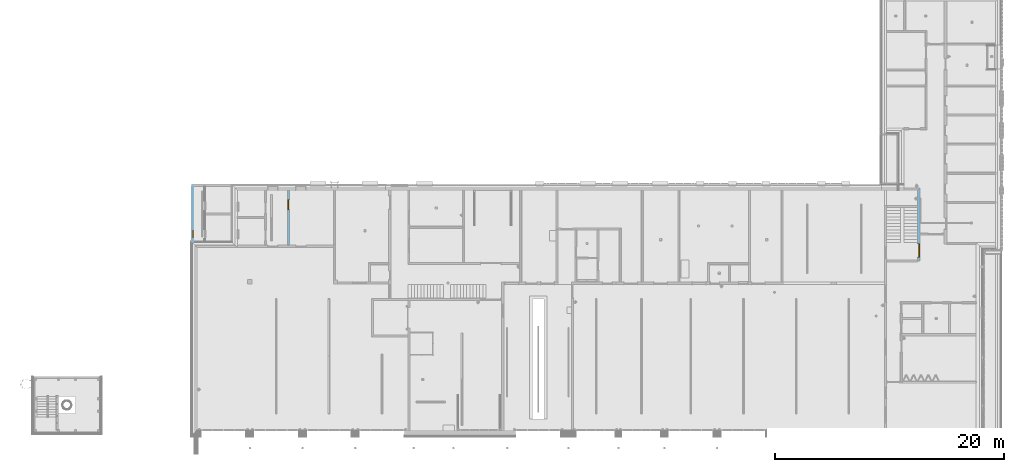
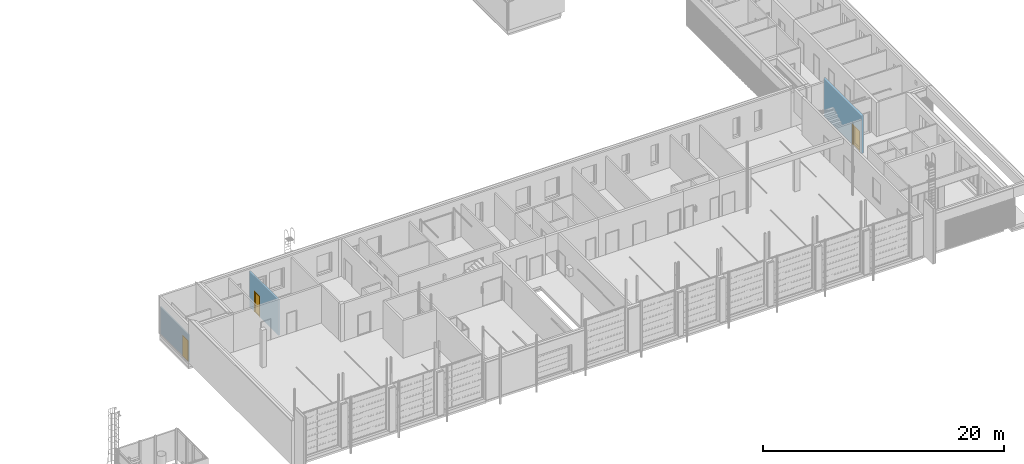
# One storey, part 44 of 112: 3 doors, 3 openings, plus 3 elements that do not belong to this part.
"""IFC2X3 building model written with IfcOpenShell, lengths in millimetres."""

from ifc_helpers import new_model, entity, si_unit, converted_unit, derived_unit, money_unit, direction, frame, origin_with_axes, origin_2d_with_axis, place, context, subcontext, project, spatial, polyline, rectangle, outline, extrude, open_shell, faceted_brep, surface_model, material, layer, layer_set, layer_usage, type_object, element, fill, save


model = new_model("IFC2X3")

# Units and contexts
model_context = context("Model", 3, precision=0.01, world=origin_with_axes(), true_north=direction((0.0, 1.0)))
body_context = subcontext(model_context, "Body", "Model", "MODEL_VIEW")
ifc_project = project(units=[si_unit("LENGTHUNIT", "METRE", prefix="MILLI"), si_unit("AREAUNIT", "SQUARE_METRE"), si_unit("VOLUMEUNIT", "CUBIC_METRE"), converted_unit("PLANEANGLEUNIT", "DEGREE", entity("IfcPlaneAngleMeasure", 0.0174532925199), si_unit("PLANEANGLEUNIT", "RADIAN"), dimensions=[0, 0, 0, 0, 0, 0, 0]), si_unit("SOLIDANGLEUNIT", "STERADIAN"), money_unit("EUR"), converted_unit("TIMEUNIT", "Year", entity("IfcTimeMeasure", 31556926.0), si_unit("TIMEUNIT", "SECOND"), dimensions=[0, 0, 1, 0, 0, 0, 0]), si_unit("MASSUNIT", "GRAM", prefix="KILO"), si_unit("THERMODYNAMICTEMPERATUREUNIT", "DEGREE_CELSIUS"), si_unit("LUMINOUSINTENSITYUNIT", "LUMEN"), si_unit("ENERGYUNIT", "JOULE", prefix="MEGA"), derived_unit("THERMALCONDUCTANCEUNIT", [(si_unit("POWERUNIT", "WATT"), 1), (si_unit("LENGTHUNIT", "METRE"), -1), (si_unit("THERMODYNAMICTEMPERATUREUNIT", "KELVIN"), -1)]), derived_unit("SPECIFICHEATCAPACITYUNIT", [(si_unit("ENERGYUNIT", "JOULE"), 1), (si_unit("MASSUNIT", "GRAM", prefix="KILO"), -1), (si_unit("THERMODYNAMICTEMPERATUREUNIT", "KELVIN"), -1)]), derived_unit("MASSDENSITYUNIT", [(si_unit("MASSUNIT", "GRAM", prefix="KILO"), 1), (si_unit("VOLUMEUNIT", "CUBIC_METRE"), -1)])], contexts=[model_context])

# Site, building, storey
site_placement = place(None, origin_with_axes())
site = spatial("IfcSite", under=ifc_project, at=site_placement, Name="Politse- ja Piirivalveameti ning Päästeameti ühishoone", CompositionType="ELEMENT")
building_placement = place(site_placement, origin_with_axes())
building = spatial("IfcBuilding", under=site, at=building_placement, Name="Politse- ja Piirivalveameti ning Päästeameti ühishoone", CompositionType="ELEMENT")
storey_placement = place(building_placement, origin_with_axes())
storey = spatial("IfcBuildingStorey", under=building, at=storey_placement, Name="Esimene korrus", CompositionType="ELEMENT", Elevation=0.0)

# Wall, opening, door
ifc_material_1 = material(Name="KON-05_Betoon Plokk - Konstuktsioon")
ifc_layer_1 = layer(ifc_material_1, 190.0, ventilated="UNKNOWN")
ifc_layer_set_1 = layer_set([ifc_layer_1], Name="SS-03_Sisesein 190")
ifc_layer_usage_1 = layer_usage(ifc_layer_set_1, "AXIS2", "NEGATIVE", 190.0)
wall_type_1 = type_object("IfcWallType", Name="SS-03_Sisesein 190 190", PredefinedType="NOTDEFINED")
wall_1_placement = place(storey_placement, frame((63050.557259, 14802.7968272, 0.0), z_axis=(0.0, 0.0, 1.0), x_axis=(0.0, 1.0, 0.0)))
wall_1 = element("IfcWallStandardCase", 1, at=wall_1_placement, inside=storey, type_object=wall_type_1, material=ifc_layer_usage_1, Name="SS-03", context=body_context, shape_type="SweptSolid", body=[
    extrude(outline(polyline([(0.0, 0.0), (6387.15525599, 0.0), (6197.15525599, 190.0), (0.0, 190.0), (0.0, 0.0)])), origin_with_axes(), (0.0, 0.0, 1.0), 3800.0),
])
opening_1_placement = place(wall_1_placement, frame((917.155255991, 0.0, 0.0), z_axis=(0.0, 0.0, 1.0), x_axis=(1.0, 0.0, 0.0)))
opening_1 = element("IfcOpeningElement", 2, at=opening_1_placement, cuts=wall_1, Name="TU-01-4", context=body_context, shape_type="SweptSolid", body=[
    extrude(rectangle(XDim=1200.0, YDim=2100.0, at=origin_2d_with_axis()), frame((0.0, 190.0, 1050.0), z_axis=(0.0, -1.0, 0.0), x_axis=(-1.0, 0.0, 0.0)), (0.0, 0.0, 1.0), 570.0),
    extrude(rectangle(XDim=1274.0, YDim=2137.0, at=origin_2d_with_axis()), frame((0.0, 190.0, 1068.5), z_axis=(0.0, -1.0, 0.0), x_axis=(-1.0, 0.0, 0.0)), (0.0, 0.0, -1.0), 190.0),
    extrude(rectangle(XDim=1274.0, YDim=2137.0, at=origin_2d_with_axis()), frame((0.0, 0.0, 1068.5), z_axis=(0.0, 1.0, 0.0), x_axis=(-1.0, 0.0, 0.0)), (0.0, 0.0, -1.0), 190.0),
])
door_style_1 = type_object("IfcDoorStyle", Name="Double Door Asymmetric 23", ConstructionType="NOTDEFINED", OperationType="DOUBLE_DOOR_SINGLE_SWING", ParameterTakesPrecedence=False, Sizeable=False)
door_1_placement = place(opening_1_placement, frame((600.0, 0.0, 0.0), z_axis=(0.0, 0.0, 1.0), x_axis=(-1.0, 0.0, 0.0)))
door_1 = element("IfcDoor", 3, at=door_1_placement, inside=storey, type_object=door_style_1, Name="TU-01-4", ObjectType="DOOR", OverallHeight=2100.0, OverallWidth=1200.0, context=body_context, shape_type="SurfaceModel", body=[
    faceted_brep([(1172.0, -40.0, 0.0), (1172.0, -40.0, 12.0), (1160.0, -40.0, 12.0), (1160.0, -40.0, 0.0), (28.0, -40.0, 0.0), (28.0, -40.0, 12.0), (40.0, -40.0, 12.0), (40.0, -115.0, 12.0), (1160.0, -115.0, 12.0), (1160.0, -115.0, 0.0), (40.0, -115.0, 0.0), (40.0, -40.0, 0.0)], [[[0, 1, 2, 3]], [[4, 5, 1, 0]], [[1, 5, 6, 7, 8, 2]], [[3, 2, 8, 9]], [[0, 3, 9, 10, 11, 4]], [[11, 6, 5, 4]], [[10, 7, 6, 11]], [[9, 8, 7, 10]]]),
    faceted_brep([(0.0, -115.0, 0.0), (25.0, -115.0, 0.0), (25.0, -190.0, 0.0), (0.0, -190.0, 0.0), (0.0, -115.0, 2100.0), (25.0, -115.0, 2075.0), (25.0, -190.0, 2075.0), (0.0, -190.0, 2100.0)], [[[0, 1, 2, 3]], [[0, 4, 5, 1]], [[1, 5, 6, 2]], [[3, 2, 6, 7]], [[4, 0, 3, 7]], [[5, 4, 7, 6]]]),
    faceted_brep([(1200.0, -115.0, 2100.0), (1175.0, -115.0, 2075.0), (1175.0, -190.0, 2075.0), (1200.0, -190.0, 2100.0), (1200.0, -115.0, 0.0), (1175.0, -115.0, 0.0), (1175.0, -190.0, 0.0), (1200.0, -190.0, 0.0)], [[[0, 1, 2, 3]], [[0, 4, 5, 1]], [[1, 5, 6, 2]], [[3, 2, 6, 7]], [[4, 0, 3, 7]], [[5, 4, 7, 6]]]),
    faceted_brep([(25.0, -115.0, 2075.0), (1175.0, -115.0, 2075.0), (1175.0, -190.0, 2075.0), (25.0, -190.0, 2075.0), (0.0, -115.0, 2100.0), (1200.0, -115.0, 2100.0), (1200.0, -190.0, 2100.0), (0.0, -190.0, 2100.0)], [[[0, 1, 2, 3]], [[0, 4, 5, 1]], [[1, 5, 6, 2]], [[3, 2, 6, 7]], [[4, 0, 3, 7]], [[5, 4, 7, 6]]]),
    faceted_brep([(-37.0, -209.0, 0.0), (-37.0, -190.0, 0.0), (13.0, -190.0, 0.0), (13.0, -209.0, 0.0), (-37.0, -209.0, 2137.0), (-37.0, -190.0, 2137.0), (13.0, -190.0, 2087.0), (13.0, -209.0, 2087.0)], [[[0, 1, 2, 3]], [[4, 5, 1, 0]], [[1, 5, 6, 2]], [[3, 2, 6, 7]], [[0, 3, 7, 4]], [[7, 6, 5, 4]]]),
    faceted_brep([(1237.0, -209.0, 2137.0), (1237.0, -190.0, 2137.0), (1187.0, -190.0, 2087.0), (1187.0, -209.0, 2087.0), (1237.0, -209.0, 0.0), (1237.0, -190.0, 0.0), (1187.0, -190.0, 0.0), (1187.0, -209.0, 0.0)], [[[0, 1, 2, 3]], [[4, 5, 1, 0]], [[1, 5, 6, 2]], [[3, 2, 6, 7]], [[0, 3, 7, 4]], [[7, 6, 5, 4]]]),
    faceted_brep([(-37.0, -209.0, 2137.0), (-37.0, -190.0, 2137.0), (13.0, -190.0, 2087.0), (13.0, -209.0, 2087.0), (1237.0, -209.0, 2137.0), (1237.0, -190.0, 2137.0), (1187.0, -190.0, 2087.0), (1187.0, -209.0, 2087.0)], [[[0, 1, 2, 3]], [[4, 5, 1, 0]], [[1, 5, 6, 2]], [[3, 2, 6, 7]], [[0, 3, 7, 4]], [[7, 6, 5, 4]]]),
    faceted_brep([(-37.0, 19.0, 0.0), (13.0, 19.0, 0.0), (13.0, 0.0, 0.0), (-37.0, 0.0, 0.0), (-37.0, 19.0, 2137.0), (13.0, 19.0, 2087.0), (13.0, 0.0, 2087.0), (-37.0, 0.0, 2137.0)], [[[0, 1, 2, 3]], [[0, 4, 5, 1]], [[1, 5, 6, 2]], [[3, 2, 6, 7]], [[4, 0, 3, 7]], [[5, 4, 7, 6]]]),
    faceted_brep([(1237.0, 19.0, 2137.0), (1187.0, 19.0, 2087.0), (1187.0, 0.0, 2087.0), (1237.0, 0.0, 2137.0), (1237.0, 19.0, 0.0), (1187.0, 19.0, 0.0), (1187.0, 0.0, 0.0), (1237.0, 0.0, 0.0)], [[[0, 1, 2, 3]], [[0, 4, 5, 1]], [[1, 5, 6, 2]], [[3, 2, 6, 7]], [[4, 0, 3, 7]], [[5, 4, 7, 6]]]),
    faceted_brep([(-37.0, 19.0, 2137.0), (13.0, 19.0, 2087.0), (13.0, 0.0, 2087.0), (-37.0, 0.0, 2137.0), (1237.0, 19.0, 2137.0), (1187.0, 19.0, 2087.0), (1187.0, 0.0, 2087.0), (1237.0, 0.0, 2137.0)], [[[0, 1, 2, 3]], [[0, 4, 5, 1]], [[1, 5, 6, 2]], [[3, 2, 6, 7]], [[4, 0, 3, 7]], [[5, 4, 7, 6]]]),
    faceted_brep([(40.0, -40.0, 0.0), (40.0, -40.0, 2060.0), (40.0, -115.0, 2060.0), (40.0, -115.0, 0.0), (28.0, -40.0, 2060.0), (28.0, -40.0, 0.0), (28.0, 0.0, 2060.0), (0.0, 0.0, 2060.0), (0.0, -115.0, 2060.0), (0.0, -115.0, 0.0), (0.0, 0.0, 0.0), (28.0, 0.0, 0.0)], [[[0, 1, 2, 3]], [[4, 1, 0, 5]], [[4, 6, 7, 8, 2, 1]], [[3, 2, 8, 9]], [[5, 0, 3, 9, 10, 11]], [[6, 4, 5, 11]], [[6, 11, 10, 7]], [[10, 9, 8, 7]]]),
    faceted_brep([(1172.0, -40.0, 2060.0), (1160.0, -40.0, 2060.0), (1160.0, -115.0, 2060.0), (1200.0, -115.0, 2060.0), (1200.0, 0.0, 2060.0), (1172.0, 0.0, 2060.0), (1172.0, -40.0, 0.0), (1160.0, -40.0, 0.0), (1160.0, -115.0, 0.0), (1200.0, -115.0, 0.0), (1200.0, 0.0, 0.0), (1172.0, 0.0, 0.0)], [[[0, 1, 2, 3, 4, 5]], [[1, 0, 6, 7]], [[1, 7, 8, 2]], [[3, 2, 8, 9]], [[4, 3, 9, 10]], [[11, 5, 4, 10]], [[0, 5, 11, 6]], [[6, 11, 10, 9, 8, 7]]]),
    faceted_brep([(28.0, 0.0, 2072.0), (28.0, 0.0, 2060.0), (0.0, 0.0, 2060.0), (0.0, 0.0, 2100.0), (1200.0, 0.0, 2100.0), (1200.0, 0.0, 2060.0), (1172.0, 0.0, 2060.0), (1172.0, 0.0, 2072.0), (28.0, -40.0, 2072.0), (28.0, -40.0, 2060.0), (40.0, -40.0, 2060.0), (40.0, -115.0, 2060.0), (0.0, -115.0, 2060.0), (0.0, -115.0, 2100.0), (1200.0, -115.0, 2100.0), (1200.0, -115.0, 2060.0), (1172.0, -40.0, 2060.0), (1160.0, -115.0, 2060.0), (1160.0, -40.0, 2060.0), (1172.0, -40.0, 2072.0)], [[[0, 1, 2, 3, 4, 5, 6, 7]], [[1, 0, 8, 9]], [[9, 10, 11, 12, 2, 1]], [[2, 12, 13, 3]], [[3, 13, 14, 4]], [[4, 14, 15, 5]], [[16, 6, 5, 15, 17, 18]], [[7, 6, 16, 19]], [[0, 7, 19, 8]], [[16, 18, 10, 9, 8, 19]], [[10, 18, 17, 11]], [[17, 15, 14, 13, 12, 11]]]),
    faceted_brep([(1172.0, 0.0, 200.0), (1172.0, -40.0, 200.0), (1072.0, -40.0, 200.0), (1072.0, 0.0, 200.0), (1172.0, 0.0, 1972.0), (1172.0, -40.0, 1972.0), (1072.0, -40.0, 1972.0), (1072.0, 0.0, 1972.0)], [[[0, 1, 2, 3]], [[4, 5, 1, 0]], [[1, 5, 6, 2]], [[3, 2, 6, 7]], [[0, 3, 7, 4]], [[7, 6, 5, 4]]]),
    faceted_brep([(872.0, 0.0, 200.0), (872.0, -40.0, 200.0), (872.0, -40.0, 1972.0), (872.0, 0.0, 1972.0), (972.0, 0.0, 200.0), (972.0, -40.0, 200.0), (972.0, -40.0, 1972.0), (972.0, 0.0, 1972.0)], [[[0, 1, 2, 3]], [[4, 5, 1, 0]], [[1, 5, 6, 2]], [[3, 2, 6, 7]], [[0, 3, 7, 4]], [[7, 6, 5, 4]]]),
    faceted_brep([(1172.0, 0.0, 0.0), (1172.0, -40.0, 0.0), (872.0, -40.0, 0.0), (872.0, 0.0, 0.0), (1172.0, 0.0, 200.0), (1172.0, -40.0, 200.0), (1072.0, -40.0, 200.0), (972.0, -40.0, 200.0), (872.0, -40.0, 200.0), (872.0, 0.0, 200.0), (972.0, 0.0, 200.0), (1072.0, 0.0, 200.0)], [[[0, 1, 2, 3]], [[4, 5, 1, 0]], [[1, 5, 6, 7, 8, 2]], [[3, 2, 8, 9]], [[0, 3, 9, 10, 11, 4]], [[11, 6, 5, 4]], [[10, 7, 6, 11]], [[9, 8, 7, 10]]]),
    faceted_brep([(1172.0, 0.0, 2072.0), (1172.0, -40.0, 2072.0), (1172.0, -40.0, 1972.0), (1172.0, 0.0, 1972.0), (872.0, 0.0, 2072.0), (872.0, -40.0, 2072.0), (872.0, -40.0, 1972.0), (972.0, -40.0, 1972.0), (1072.0, -40.0, 1972.0), (1072.0, 0.0, 1972.0), (972.0, 0.0, 1972.0), (872.0, 0.0, 1972.0)], [[[0, 1, 2, 3]], [[4, 5, 1, 0]], [[1, 5, 6, 7, 8, 2]], [[3, 2, 8, 9]], [[0, 3, 9, 10, 11, 4]], [[11, 6, 5, 4]], [[10, 7, 6, 11]], [[9, 8, 7, 10]]]),
    surface_model("IfcShellBasedSurfaceModel", [(1072.0, -14.0, 200.0), (972.0, -14.0, 200.0), (972.0, -14.0, 1972.0), (1072.0, -14.0, 1972.0)], [open_shell([[[0, 1, 2, 3]]])]),
    surface_model("IfcShellBasedSurfaceModel", [(1072.0, -26.0, 200.0), (1072.0, -26.0, 1972.0), (972.0, -26.0, 1972.0), (972.0, -26.0, 200.0)], [open_shell([[[0, 1, 2, 3]]])]),
    faceted_brep([(28.0, 0.0, 200.0), (128.0, 0.0, 200.0), (128.0, -40.0, 200.0), (28.0, -40.0, 200.0), (28.0, 0.0, 1972.0), (128.0, 0.0, 1972.0), (128.0, -40.0, 1972.0), (28.0, -40.0, 1972.0)], [[[0, 1, 2, 3]], [[0, 4, 5, 1]], [[1, 5, 6, 2]], [[3, 2, 6, 7]], [[4, 0, 3, 7]], [[5, 4, 7, 6]]]),
    faceted_brep([(872.0, 0.0, 200.0), (872.0, 0.0, 1972.0), (872.0, -40.0, 1972.0), (872.0, -40.0, 200.0), (772.0, 0.0, 200.0), (772.0, 0.0, 1972.0), (772.0, -40.0, 1972.0), (772.0, -40.0, 200.0)], [[[0, 1, 2, 3]], [[0, 4, 5, 1]], [[1, 5, 6, 2]], [[3, 2, 6, 7]], [[4, 0, 3, 7]], [[5, 4, 7, 6]]]),
    faceted_brep([(28.0, 0.0, 0.0), (872.0, 0.0, 0.0), (872.0, -40.0, 0.0), (28.0, -40.0, 0.0), (28.0, 0.0, 200.0), (128.0, 0.0, 200.0), (772.0, 0.0, 200.0), (872.0, 0.0, 200.0), (872.0, -40.0, 200.0), (772.0, -40.0, 200.0), (128.0, -40.0, 200.0), (28.0, -40.0, 200.0)], [[[0, 1, 2, 3]], [[0, 4, 5, 6, 7, 1]], [[1, 7, 8, 2]], [[3, 2, 8, 9, 10, 11]], [[4, 0, 3, 11]], [[5, 4, 11, 10]], [[6, 5, 10, 9]], [[7, 6, 9, 8]]]),
    faceted_brep([(28.0, 0.0, 2072.0), (28.0, 0.0, 1972.0), (28.0, -40.0, 1972.0), (28.0, -40.0, 2072.0), (872.0, 0.0, 2072.0), (872.0, 0.0, 1972.0), (772.0, 0.0, 1972.0), (128.0, 0.0, 1972.0), (128.0, -40.0, 1972.0), (772.0, -40.0, 1972.0), (872.0, -40.0, 1972.0), (872.0, -40.0, 2072.0)], [[[0, 1, 2, 3]], [[0, 4, 5, 6, 7, 1]], [[1, 7, 8, 2]], [[3, 2, 8, 9, 10, 11]], [[4, 0, 3, 11]], [[5, 4, 11, 10]], [[6, 5, 10, 9]], [[7, 6, 9, 8]]]),
    surface_model("IfcShellBasedSurfaceModel", [(128.0, -14.0, 200.0), (128.0, -14.0, 1972.0), (772.0, -14.0, 1972.0), (772.0, -14.0, 200.0)], [open_shell([[[0, 1, 2, 3]]])]),
    surface_model("IfcShellBasedSurfaceModel", [(128.0, -26.0, 200.0), (772.0, -26.0, 200.0), (772.0, -26.0, 1972.0), (128.0, -26.0, 1972.0)], [open_shell([[[0, 1, 2, 3]]])]),
])
fill(opening_1, door_1)

ifc_layer_2 = layer(ifc_material_1, 140.0, ventilated="UNKNOWN")
ifc_layer_set_2 = layer_set([ifc_layer_2], Name="SS-02_Sisesein 140")
ifc_layer_usage_2 = layer_usage(ifc_layer_set_2, "AXIS2", "NEGATIVE", 140.0)
wall_type_2 = type_object("IfcWallType", Name="SS-02_Sisesein 140 140", PredefinedType="NOTDEFINED")
wall_2_placement = place(storey_placement, frame((7899.93206932, 20999.9520832, 0.0), z_axis=(0.0, 0.0, 1.0), x_axis=(0.0, -1.0, 0.0)))
wall_2 = element("IfcWallStandardCase", 4, at=wall_2_placement, inside=storey, type_object=wall_type_2, material=ifc_layer_usage_2, Name="SS-02", context=body_context, shape_type="SweptSolid", body=[
    extrude(outline(polyline([(0.0, 0.0), (4809.92763877, 0.0), (4809.92763877, 140.0), (0.0, 140.0), (0.0, 0.0)])), origin_with_axes(), (0.0, 0.0, 1.0), 3580.0),
])
opening_2_placement = place(wall_2_placement, frame((1269.67215762, 0.0, 0.0), z_axis=(0.0, 0.0, 1.0), x_axis=(1.0, 0.0, 0.0)))
opening_2 = element("IfcOpeningElement", 5, at=opening_2_placement, cuts=wall_2, Name="SU-01-1", context=body_context, shape_type="SweptSolid", body=[
    extrude(rectangle(XDim=900.0, YDim=2100.0, at=origin_2d_with_axis()), frame((0.0, 140.0, 1050.0), z_axis=(0.0, -1.0, 0.0), x_axis=(1.0, 0.0, 0.0)), (0.0, 0.0, 1.0), 420.0),
    extrude(rectangle(XDim=974.0, YDim=2137.0, at=origin_2d_with_axis()), frame((0.0, 140.0, 1068.5), z_axis=(0.0, -1.0, 0.0), x_axis=(1.0, 0.0, 0.0)), (0.0, 0.0, -1.0), 140.0),
    extrude(rectangle(XDim=974.0, YDim=2137.0, at=origin_2d_with_axis()), frame((0.0, 0.0, 1068.5), z_axis=(0.0, 1.0, 0.0), x_axis=(1.0, 0.0, 0.0)), (0.0, 0.0, -1.0), 140.0),
])
door_style_2 = type_object("IfcDoorStyle", Name="Door 23", ConstructionType="NOTDEFINED", OperationType="SINGLE_SWING_RIGHT", ParameterTakesPrecedence=False, Sizeable=False)
door_2_placement = place(opening_2_placement, frame((-450.0, 0.0, 0.0), z_axis=(0.0, 0.0, 1.0), x_axis=(1.0, 0.0, 0.0)))
door_2 = element("IfcDoor", 6, at=door_2_placement, inside=storey, type_object=door_style_2, Name="SU-01-1", ObjectType="DOOR", OverallHeight=2100.0, OverallWidth=900.0, context=body_context, shape_type="Brep", body=[
    faceted_brep([(860.0, 0.0, 0.0), (860.0, 75.0, 0.0), (860.0, 75.0, 12.0), (860.0, 0.0, 12.0), (40.0, 0.0, 0.0), (40.0, 75.0, 0.0), (28.0, 75.0, 0.0), (872.0, 75.0, 0.0), (872.0, 75.0, 12.0), (28.0, 75.0, 12.0), (40.0, 75.0, 12.0), (40.0, 0.0, 12.0)], [[[0, 1, 2, 3]], [[0, 4, 5, 6, 7, 1]], [[1, 7, 8, 2]], [[3, 2, 8, 9, 10, 11]], [[4, 0, 3, 11]], [[5, 4, 11, 10]], [[6, 5, 10, 9]], [[7, 6, 9, 8]]]),
    faceted_brep([(0.0, 115.0, 0.0), (0.0, 140.0, 0.0), (25.0, 140.0, 0.0), (25.0, 115.0, 0.0), (0.0, 115.0, 2100.0), (0.0, 140.0, 2100.0), (25.0, 140.0, 2075.0), (25.0, 115.0, 2075.0)], [[[0, 1, 2, 3]], [[4, 5, 1, 0]], [[1, 5, 6, 2]], [[3, 2, 6, 7]], [[0, 3, 7, 4]], [[7, 6, 5, 4]]]),
    faceted_brep([(900.0, 115.0, 2100.0), (900.0, 140.0, 2100.0), (875.0, 140.0, 2075.0), (875.0, 115.0, 2075.0), (900.0, 115.0, 0.0), (900.0, 140.0, 0.0), (875.0, 140.0, 0.0), (875.0, 115.0, 0.0)], [[[0, 1, 2, 3]], [[4, 5, 1, 0]], [[1, 5, 6, 2]], [[3, 2, 6, 7]], [[0, 3, 7, 4]], [[7, 6, 5, 4]]]),
    faceted_brep([(25.0, 115.0, 2075.0), (25.0, 140.0, 2075.0), (875.0, 140.0, 2075.0), (875.0, 115.0, 2075.0), (0.0, 115.0, 2100.0), (0.0, 140.0, 2100.0), (900.0, 140.0, 2100.0), (900.0, 115.0, 2100.0)], [[[0, 1, 2, 3]], [[4, 5, 1, 0]], [[1, 5, 6, 2]], [[3, 2, 6, 7]], [[0, 3, 7, 4]], [[7, 6, 5, 4]]]),
    faceted_brep([(-37.0, 159.0, 0.0), (13.0, 159.0, 0.0), (13.0, 140.0, 0.0), (-37.0, 140.0, 0.0), (-37.0, 159.0, 2137.0), (13.0, 159.0, 2087.0), (13.0, 140.0, 2087.0), (-37.0, 140.0, 2137.0)], [[[0, 1, 2, 3]], [[0, 4, 5, 1]], [[1, 5, 6, 2]], [[3, 2, 6, 7]], [[4, 0, 3, 7]], [[5, 4, 7, 6]]]),
    faceted_brep([(937.0, 159.0, 2137.0), (887.0, 159.0, 2087.0), (887.0, 140.0, 2087.0), (937.0, 140.0, 2137.0), (937.0, 159.0, 0.0), (887.0, 159.0, 0.0), (887.0, 140.0, 0.0), (937.0, 140.0, 0.0)], [[[0, 1, 2, 3]], [[0, 4, 5, 1]], [[1, 5, 6, 2]], [[3, 2, 6, 7]], [[4, 0, 3, 7]], [[5, 4, 7, 6]]]),
    faceted_brep([(-37.0, 159.0, 2137.0), (13.0, 159.0, 2087.0), (13.0, 140.0, 2087.0), (-37.0, 140.0, 2137.0), (937.0, 159.0, 2137.0), (887.0, 159.0, 2087.0), (887.0, 140.0, 2087.0), (937.0, 140.0, 2137.0)], [[[0, 1, 2, 3]], [[0, 4, 5, 1]], [[1, 5, 6, 2]], [[3, 2, 6, 7]], [[4, 0, 3, 7]], [[5, 4, 7, 6]]]),
    faceted_brep([(-37.0, -19.0, 0.0), (-37.0, 0.0, 0.0), (13.0, 0.0, 0.0), (13.0, -19.0, 0.0), (-37.0, -19.0, 2137.0), (-37.0, 0.0, 2137.0), (13.0, 0.0, 2087.0), (13.0, -19.0, 2087.0)], [[[0, 1, 2, 3]], [[4, 5, 1, 0]], [[1, 5, 6, 2]], [[3, 2, 6, 7]], [[0, 3, 7, 4]], [[7, 6, 5, 4]]]),
    faceted_brep([(937.0, -19.0, 2137.0), (937.0, 0.0, 2137.0), (887.0, 0.0, 2087.0), (887.0, -19.0, 2087.0), (937.0, -19.0, 0.0), (937.0, 0.0, 0.0), (887.0, 0.0, 0.0), (887.0, -19.0, 0.0)], [[[0, 1, 2, 3]], [[4, 5, 1, 0]], [[1, 5, 6, 2]], [[3, 2, 6, 7]], [[0, 3, 7, 4]], [[7, 6, 5, 4]]]),
    faceted_brep([(-37.0, -19.0, 2137.0), (-37.0, 0.0, 2137.0), (13.0, 0.0, 2087.0), (13.0, -19.0, 2087.0), (937.0, -19.0, 2137.0), (937.0, 0.0, 2137.0), (887.0, 0.0, 2087.0), (887.0, -19.0, 2087.0)], [[[0, 1, 2, 3]], [[4, 5, 1, 0]], [[1, 5, 6, 2]], [[3, 2, 6, 7]], [[0, 3, 7, 4]], [[7, 6, 5, 4]]]),
    faceted_brep([(40.0, 75.0, 0.0), (40.0, 75.0, 2060.0), (40.0, 0.0, 2060.0), (40.0, 0.0, 0.0), (28.0, 75.0, 2060.0), (28.0, 75.0, 0.0), (28.0, 115.0, 2060.0), (0.0, 115.0, 2060.0), (0.0, 0.0, 2060.0), (0.0, 0.0, 0.0), (0.0, 115.0, 0.0), (28.0, 115.0, 0.0)], [[[0, 1, 2, 3]], [[4, 1, 0, 5]], [[4, 6, 7, 8, 2, 1]], [[3, 2, 8, 9]], [[5, 0, 3, 9, 10, 11]], [[6, 4, 5, 11]], [[6, 11, 10, 7]], [[10, 9, 8, 7]]]),
    faceted_brep([(872.0, 75.0, 2060.0), (860.0, 75.0, 2060.0), (860.0, 0.0, 2060.0), (900.0, 0.0, 2060.0), (900.0, 115.0, 2060.0), (872.0, 115.0, 2060.0), (872.0, 75.0, 0.0), (860.0, 75.0, 0.0), (860.0, 0.0, 0.0), (900.0, 0.0, 0.0), (900.0, 115.0, 0.0), (872.0, 115.0, 0.0)], [[[0, 1, 2, 3, 4, 5]], [[1, 0, 6, 7]], [[1, 7, 8, 2]], [[3, 2, 8, 9]], [[4, 3, 9, 10]], [[11, 5, 4, 10]], [[0, 5, 11, 6]], [[6, 11, 10, 9, 8, 7]]]),
    faceted_brep([(28.0, 115.0, 2072.0), (28.0, 115.0, 2060.0), (0.0, 115.0, 2060.0), (0.0, 115.0, 2100.0), (900.0, 115.0, 2100.0), (900.0, 115.0, 2060.0), (872.0, 115.0, 2060.0), (872.0, 115.0, 2072.0), (28.0, 75.0, 2072.0), (28.0, 75.0, 2060.0), (40.0, 75.0, 2060.0), (40.0, 0.0, 2060.0), (0.0, 0.0, 2060.0), (0.0, 0.0, 2100.0), (900.0, 0.0, 2100.0), (900.0, 0.0, 2060.0), (872.0, 75.0, 2060.0), (860.0, 0.0, 2060.0), (860.0, 75.0, 2060.0), (872.0, 75.0, 2072.0)], [[[0, 1, 2, 3, 4, 5, 6, 7]], [[1, 0, 8, 9]], [[9, 10, 11, 12, 2, 1]], [[2, 12, 13, 3]], [[3, 13, 14, 4]], [[4, 14, 15, 5]], [[16, 6, 5, 15, 17, 18]], [[7, 6, 16, 19]], [[0, 7, 19, 8]], [[16, 18, 10, 9, 8, 19]], [[10, 18, 17, 11]], [[17, 15, 14, 13, 12, 11]]]),
    faceted_brep([(872.0, 115.0, 0.0), (872.0, 75.0, 0.0), (28.0, 75.0, 0.0), (28.0, 115.0, 0.0), (872.0, 115.0, 2072.0), (872.0, 75.0, 2072.0), (28.0, 75.0, 2072.0), (28.0, 115.0, 2072.0)], [[[0, 1, 2, 3]], [[4, 5, 1, 0]], [[1, 5, 6, 2]], [[3, 2, 6, 7]], [[0, 3, 7, 4]], [[7, 6, 5, 4]]]),
])
fill(opening_2, door_2)

ifc_material_2 = material(Name="Õhkvahe - Raam")
ifc_layer_3 = layer(ifc_material_2, 50.0, ventilated="UNKNOWN")
ifc_layer_set_3 = layer_set([ifc_layer_3], Name="VS-05_välissein - fassaadilamell")
ifc_layer_usage_3 = layer_usage(ifc_layer_set_3, "AXIS2", "NEGATIVE", 50.0)
wall_type_3 = type_object("IfcWallType", Name="VS-05_välissein - fassaadilamell 50", PredefinedType="NOTDEFINED")
wall_3_placement = place(storey_placement, frame((-409.917636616, 21309.9520832, 0.0), z_axis=(0.0, 0.0, 1.0), x_axis=(0.0, -1.0, 0.0)))
wall_3 = element("IfcWallStandardCase", 7, at=wall_3_placement, inside=storey, type_object=wall_type_3, material=ifc_layer_usage_3, Name="VS-05", context=body_context, shape_type="SweptSolid", body=[
    extrude(outline(polyline([(0.0, 0.0), (4800.0, 0.0), (4800.0, 50.0), (0.0, 50.0), (0.0, 0.0)])), origin_with_axes(), (0.0, 0.0, 1.0), 2800.0),
])
opening_3_placement = place(wall_3_placement, frame((4159.17443318, 0.0, 0.0), z_axis=(0.0, 0.0, 1.0), x_axis=(1.0, 0.0, 0.0)))
opening_3 = element("IfcOpeningElement", 8, at=opening_3_placement, cuts=wall_3, Name="VU-04", context=body_context, shape_type="SweptSolid", body=[
    extrude(rectangle(XDim=900.0, YDim=2100.0, at=origin_2d_with_axis()), frame((0.0, 50.0, 1050.0), z_axis=(0.0, 1.0, 0.0), x_axis=(1.0, 0.0, 0.0)), (0.0, 0.0, -1.0), 180.0),
])
door_style_3 = type_object("IfcDoorStyle", Name="Door 23", ConstructionType="NOTDEFINED", OperationType="SINGLE_SWING_LEFT", ParameterTakesPrecedence=False, Sizeable=False)
door_3_placement = place(opening_3_placement, frame((450.0, 0.0, 0.0), z_axis=(0.0, 0.0, 1.0), x_axis=(-1.0, 0.0, 0.0)))
door_3 = element("IfcDoor", 9, at=door_3_placement, inside=storey, type_object=door_style_3, Name="VU-04", ObjectType="DOOR", OverallHeight=2100.0, OverallWidth=900.0, context=body_context, shape_type="SurfaceModel", body=[
    faceted_brep([(28.0, -10.0, 0.0), (40.0, -10.0, 0.0), (40.0, -10.0, 12.0), (28.0, -10.0, 12.0), (872.0, -10.0, 0.0), (860.0, -10.0, 0.0), (860.0, -85.0, 0.0), (40.0, -85.0, 0.0), (40.0, -85.0, 12.0), (860.0, -85.0, 12.0), (860.0, -10.0, 12.0), (872.0, -10.0, 12.0)], [[[0, 1, 2, 3]], [[0, 4, 5, 6, 7, 1]], [[1, 7, 8, 2]], [[3, 2, 8, 9, 10, 11]], [[4, 0, 3, 11]], [[5, 4, 11, 10]], [[6, 5, 10, 9]], [[7, 6, 9, 8]]]),
    faceted_brep([(860.0, -10.0, 0.0), (860.0, -85.0, 0.0), (860.0, -85.0, 2060.0), (860.0, -10.0, 2060.0), (872.0, -10.0, 0.0), (872.0, 30.0, 0.0), (900.0, 30.0, 0.0), (900.0, -85.0, 0.0), (900.0, -85.0, 2060.0), (872.0, -10.0, 2060.0), (900.0, 30.0, 2060.0), (872.0, 30.0, 2060.0)], [[[0, 1, 2, 3]], [[4, 5, 6, 7, 1, 0]], [[1, 7, 8, 2]], [[9, 3, 2, 8, 10, 11]], [[9, 4, 0, 3]], [[11, 5, 4, 9]], [[11, 10, 6, 5]], [[6, 10, 8, 7]]]),
    faceted_brep([(28.0, -10.0, 2060.0), (28.0, 30.0, 2060.0), (0.0, 30.0, 2060.0), (0.0, -85.0, 2060.0), (40.0, -85.0, 2060.0), (40.0, -10.0, 2060.0), (28.0, -10.0, 0.0), (28.0, 30.0, 0.0), (0.0, 30.0, 0.0), (0.0, -85.0, 0.0), (40.0, -85.0, 0.0), (40.0, -10.0, 0.0)], [[[0, 1, 2, 3, 4, 5]], [[0, 6, 7, 1]], [[7, 8, 2, 1]], [[2, 8, 9, 3]], [[3, 9, 10, 4]], [[5, 4, 10, 11]], [[5, 11, 6, 0]], [[6, 11, 10, 9, 8, 7]]]),
    faceted_brep([(872.0, 30.0, 2072.0), (28.0, 30.0, 2072.0), (28.0, 30.0, 2060.0), (0.0, 30.0, 2060.0), (0.0, 30.0, 2100.0), (900.0, 30.0, 2100.0), (900.0, 30.0, 2060.0), (872.0, 30.0, 2060.0), (872.0, -10.0, 2072.0), (28.0, -10.0, 2072.0), (28.0, -10.0, 2060.0), (40.0, -10.0, 2060.0), (40.0, -85.0, 2060.0), (0.0, -85.0, 2060.0), (0.0, -85.0, 2100.0), (900.0, -85.0, 2100.0), (900.0, -85.0, 2060.0), (872.0, -10.0, 2060.0), (860.0, -85.0, 2060.0), (860.0, -10.0, 2060.0)], [[[0, 1, 2, 3, 4, 5, 6, 7]], [[0, 8, 9, 1]], [[1, 9, 10, 2]], [[10, 11, 12, 13, 3, 2]], [[4, 3, 13, 14]], [[5, 4, 14, 15]], [[6, 5, 15, 16]], [[17, 7, 6, 16, 18, 19]], [[7, 17, 8, 0]], [[10, 9, 8, 17, 19, 11]], [[19, 18, 12, 11]], [[12, 18, 16, 15, 14, 13]]]),
    faceted_brep([(28.0, 30.0, 200.0), (128.0, 30.0, 200.0), (128.0, -10.0, 200.0), (28.0, -10.0, 200.0), (28.0, 30.0, 1972.0), (128.0, 30.0, 1972.0), (128.0, -10.0, 1972.0), (28.0, -10.0, 1972.0)], [[[0, 1, 2, 3]], [[0, 4, 5, 1]], [[1, 5, 6, 2]], [[3, 2, 6, 7]], [[4, 0, 3, 7]], [[5, 4, 7, 6]]]),
    faceted_brep([(872.0, 30.0, 200.0), (872.0, 30.0, 1972.0), (872.0, -10.0, 1972.0), (872.0, -10.0, 200.0), (772.0, 30.0, 200.0), (772.0, 30.0, 1972.0), (772.0, -10.0, 1972.0), (772.0, -10.0, 200.0)], [[[0, 1, 2, 3]], [[0, 4, 5, 1]], [[1, 5, 6, 2]], [[3, 2, 6, 7]], [[4, 0, 3, 7]], [[5, 4, 7, 6]]]),
    faceted_brep([(28.0, 30.0, 0.0), (872.0, 30.0, 0.0), (872.0, -10.0, 0.0), (28.0, -10.0, 0.0), (28.0, 30.0, 200.0), (128.0, 30.0, 200.0), (772.0, 30.0, 200.0), (872.0, 30.0, 200.0), (872.0, -10.0, 200.0), (772.0, -10.0, 200.0), (128.0, -10.0, 200.0), (28.0, -10.0, 200.0)], [[[0, 1, 2, 3]], [[0, 4, 5, 6, 7, 1]], [[1, 7, 8, 2]], [[3, 2, 8, 9, 10, 11]], [[4, 0, 3, 11]], [[5, 4, 11, 10]], [[6, 5, 10, 9]], [[7, 6, 9, 8]]]),
    faceted_brep([(28.0, 30.0, 2072.0), (28.0, 30.0, 1972.0), (28.0, -10.0, 1972.0), (28.0, -10.0, 2072.0), (872.0, 30.0, 2072.0), (872.0, 30.0, 1972.0), (772.0, 30.0, 1972.0), (128.0, 30.0, 1972.0), (128.0, -10.0, 1972.0), (772.0, -10.0, 1972.0), (872.0, -10.0, 1972.0), (872.0, -10.0, 2072.0)], [[[0, 1, 2, 3]], [[0, 4, 5, 6, 7, 1]], [[1, 7, 8, 2]], [[3, 2, 8, 9, 10, 11]], [[4, 0, 3, 11]], [[5, 4, 11, 10]], [[6, 5, 10, 9]], [[7, 6, 9, 8]]]),
    surface_model("IfcShellBasedSurfaceModel", [(128.0, 16.0, 200.0), (128.0, 16.0, 1972.0), (772.0, 16.0, 1972.0), (772.0, 16.0, 200.0)], [open_shell([[[0, 1, 2, 3]]])]),
    surface_model("IfcShellBasedSurfaceModel", [(128.0, 4.0, 200.0), (772.0, 4.0, 200.0), (772.0, 4.0, 1972.0), (128.0, 4.0, 1972.0)], [open_shell([[[0, 1, 2, 3]]])]),
])
fill(opening_3, door_3)

save(model, "model.ifc")
